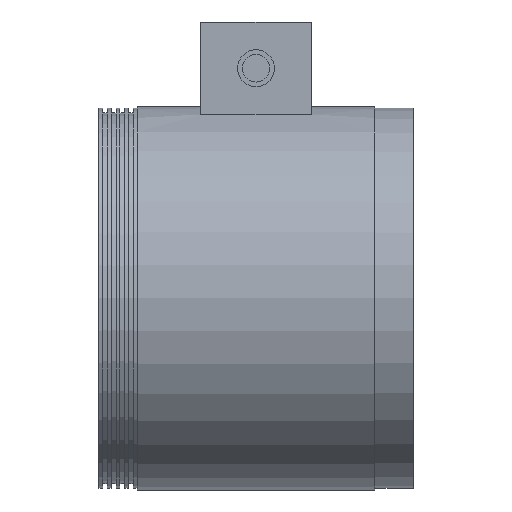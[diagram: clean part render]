
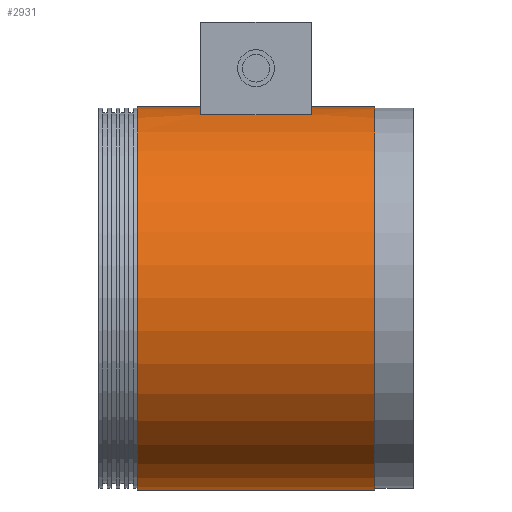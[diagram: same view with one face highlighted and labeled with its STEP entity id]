
A CAD part, top view. The second image highlights one B-rep face of the part: STEP entity #2931.
In plain terms, the highlighted cylindrical face has radius 125 mm (diameter 250 mm), a full revolution.
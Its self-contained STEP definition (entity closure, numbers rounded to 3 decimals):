
#38=FACE_BOUND('',#370,.T.);
#39=FACE_BOUND('',#371,.T.);
#85=CYLINDRICAL_SURFACE('',#3173,125.);
#202=FACE_OUTER_BOUND('',#369,.T.);
#369=EDGE_LOOP('',(#2346,#2347,#2348,#2349,#2350,#2351));
#370=EDGE_LOOP('',(#2352,#2353,#2354,#2355));
#371=EDGE_LOOP('',(#2356,#2357,#2358,#2359));
#649=LINE('',#4693,#909);
#650=LINE('',#4701,#910);
#651=LINE('',#4704,#911);
#652=LINE('',#4709,#912);
#653=LINE('',#4712,#913);
#909=VECTOR('',#3838,125.);
#910=VECTOR('',#3845,10.);
#911=VECTOR('',#3848,10.);
#912=VECTOR('',#3851,10.);
#913=VECTOR('',#3854,10.);
#1037=CIRCLE('',#3171,125.);
#1038=CIRCLE('',#3172,125.);
#1039=CIRCLE('',#3174,125.);
#1040=CIRCLE('',#3175,125.);
#1041=CIRCLE('',#3176,125.);
#1042=CIRCLE('',#3177,125.);
#1043=CIRCLE('',#3178,125.);
#1044=CIRCLE('',#3179,125.);
#1302=VERTEX_POINT('',#4687);
#1303=VERTEX_POINT('',#4688);
#1304=VERTEX_POINT('',#4692);
#1305=VERTEX_POINT('',#4694);
#1306=VERTEX_POINT('',#4697);
#1307=VERTEX_POINT('',#4698);
#1308=VERTEX_POINT('',#4700);
#1309=VERTEX_POINT('',#4702);
#1310=VERTEX_POINT('',#4705);
#1311=VERTEX_POINT('',#4706);
#1312=VERTEX_POINT('',#4708);
#1313=VERTEX_POINT('',#4710);
#1677=EDGE_CURVE('',#1302,#1303,#1037,.T.);
#1678=EDGE_CURVE('',#1303,#1302,#1038,.T.);
#1679=EDGE_CURVE('',#1303,#1304,#649,.T.);
#1680=EDGE_CURVE('',#1304,#1305,#1039,.T.);
#1681=EDGE_CURVE('',#1305,#1304,#1040,.T.);
#1682=EDGE_CURVE('',#1306,#1307,#1041,.T.);
#1683=EDGE_CURVE('',#1307,#1308,#650,.T.);
#1684=EDGE_CURVE('',#1308,#1309,#1042,.T.);
#1685=EDGE_CURVE('',#1309,#1306,#651,.T.);
#1686=EDGE_CURVE('',#1310,#1311,#1043,.T.);
#1687=EDGE_CURVE('',#1311,#1312,#652,.T.);
#1688=EDGE_CURVE('',#1312,#1313,#1044,.T.);
#1689=EDGE_CURVE('',#1313,#1310,#653,.T.);
#2346=ORIENTED_EDGE('',*,*,#1677,.F.);
#2347=ORIENTED_EDGE('',*,*,#1678,.F.);
#2348=ORIENTED_EDGE('',*,*,#1679,.T.);
#2349=ORIENTED_EDGE('',*,*,#1680,.T.);
#2350=ORIENTED_EDGE('',*,*,#1681,.T.);
#2351=ORIENTED_EDGE('',*,*,#1679,.F.);
#2352=ORIENTED_EDGE('',*,*,#1682,.T.);
#2353=ORIENTED_EDGE('',*,*,#1683,.T.);
#2354=ORIENTED_EDGE('',*,*,#1684,.T.);
#2355=ORIENTED_EDGE('',*,*,#1685,.T.);
#2356=ORIENTED_EDGE('',*,*,#1686,.T.);
#2357=ORIENTED_EDGE('',*,*,#1687,.T.);
#2358=ORIENTED_EDGE('',*,*,#1688,.T.);
#2359=ORIENTED_EDGE('',*,*,#1689,.T.);
#2931=ADVANCED_FACE('',(#202,#38,#39),#85,.T.);
#3171=AXIS2_PLACEMENT_3D('',#4689,#3832,#3833);
#3172=AXIS2_PLACEMENT_3D('',#4690,#3834,#3835);
#3173=AXIS2_PLACEMENT_3D('',#4691,#3836,#3837);
#3174=AXIS2_PLACEMENT_3D('',#4695,#3839,#3840);
#3175=AXIS2_PLACEMENT_3D('',#4696,#3841,#3842);
#3176=AXIS2_PLACEMENT_3D('',#4699,#3843,#3844);
#3177=AXIS2_PLACEMENT_3D('',#4703,#3846,#3847);
#3178=AXIS2_PLACEMENT_3D('',#4707,#3849,#3850);
#3179=AXIS2_PLACEMENT_3D('',#4711,#3852,#3853);
#3832=DIRECTION('center_axis',(1.,0.,0.));
#3833=DIRECTION('ref_axis',(0.,0.,-1.));
#3834=DIRECTION('center_axis',(1.,0.,0.));
#3835=DIRECTION('ref_axis',(0.,0.,-1.));
#3836=DIRECTION('center_axis',(1.,0.,0.));
#3837=DIRECTION('ref_axis',(0.,1.,0.));
#3838=DIRECTION('',(-1.,0.,0.));
#3839=DIRECTION('center_axis',(1.,0.,0.));
#3840=DIRECTION('ref_axis',(0.,0.,-1.));
#3841=DIRECTION('center_axis',(1.,0.,0.));
#3842=DIRECTION('ref_axis',(0.,0.,-1.));
#3843=DIRECTION('center_axis',(-1.,0.,0.));
#3844=DIRECTION('ref_axis',(0.,1.,0.));
#3845=DIRECTION('',(1.,0.,0.));
#3846=DIRECTION('center_axis',(1.,0.,0.));
#3847=DIRECTION('ref_axis',(0.,1.,0.));
#3848=DIRECTION('',(-1.,0.,0.));
#3849=DIRECTION('center_axis',(1.,0.,0.));
#3850=DIRECTION('ref_axis',(0.,1.,0.));
#3851=DIRECTION('',(-1.,0.,0.));
#3852=DIRECTION('center_axis',(-1.,0.,0.));
#3853=DIRECTION('ref_axis',(0.,1.,0.));
#3854=DIRECTION('',(1.,0.,0.));
#4687=CARTESIAN_POINT('',(180.,125.,0.));
#4688=CARTESIAN_POINT('',(180.,-125.,0.));
#4689=CARTESIAN_POINT('Origin',(180.,0.,0.));
#4690=CARTESIAN_POINT('Origin',(180.,0.,0.));
#4691=CARTESIAN_POINT('Origin',(102.5,0.,0.));
#4692=CARTESIAN_POINT('',(25.,-125.,0.));
#4693=CARTESIAN_POINT('',(102.5,-125.,0.));
#4694=CARTESIAN_POINT('',(25.,125.,0.));
#4695=CARTESIAN_POINT('Origin',(25.,0.,0.));
#4696=CARTESIAN_POINT('Origin',(25.,0.,0.));
#4697=CARTESIAN_POINT('',(97.5,81.916,-94.418));
#4698=CARTESIAN_POINT('',(97.5,-43.849,-117.057));
#4699=CARTESIAN_POINT('Origin',(97.5,0.,0.));
#4700=CARTESIAN_POINT('',(107.5,-43.849,-117.057));
#4701=CARTESIAN_POINT('',(102.5,-43.849,-117.057));
#4702=CARTESIAN_POINT('',(107.5,81.916,-94.418));
#4703=CARTESIAN_POINT('Origin',(107.5,0.,0.));
#4704=CARTESIAN_POINT('',(102.5,81.916,-94.418));
#4705=CARTESIAN_POINT('',(138.5,119.704,-36.));
#4706=CARTESIAN_POINT('',(138.5,119.704,36.));
#4707=CARTESIAN_POINT('Origin',(138.5,0.,0.));
#4708=CARTESIAN_POINT('',(66.5,119.704,36.));
#4709=CARTESIAN_POINT('',(102.5,119.704,36.));
#4710=CARTESIAN_POINT('',(66.5,119.704,-36.));
#4711=CARTESIAN_POINT('Origin',(66.5,0.,0.));
#4712=CARTESIAN_POINT('',(102.5,119.704,-36.));
